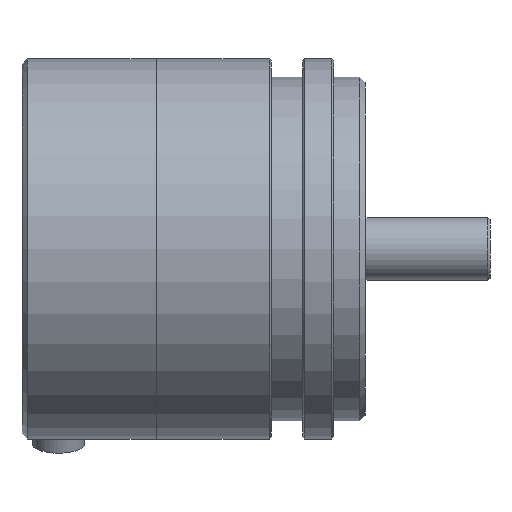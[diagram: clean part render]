
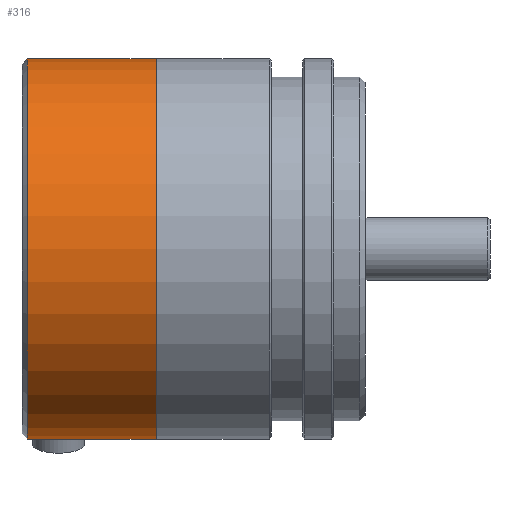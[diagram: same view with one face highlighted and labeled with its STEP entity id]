
A CAD part, left-side view. The second image highlights one B-rep face of the part: STEP entity #316.
In plain terms, the highlighted cylindrical face has radius 18.25 mm (diameter 36.5 mm), a partial arc.
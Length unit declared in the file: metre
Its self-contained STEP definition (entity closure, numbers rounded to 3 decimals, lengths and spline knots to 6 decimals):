
#29 = EDGE_CURVE ( 'NONE', #1962, #47, #444, .T. ) ;
#47 = VERTEX_POINT ( 'NONE', #573 ) ;
#123 = VERTEX_POINT ( 'NONE', #1216 ) ;
#233 = EDGE_CURVE ( 'NONE', #2034, #123, #658, .T. ) ;
#316 = ADVANCED_FACE ( 'NONE', ( #770 ), #771, .T. ) ;
#444 = LINE ( 'NONE', #445, #446 ) ;
#445 = CARTESIAN_POINT ( 'NONE',  ( 0.031546, -0.011, 0.01825 ) ) ;
#446 = VECTOR ( 'NONE',  #447 ,1. ) ;
#447 = DIRECTION ( 'NONE',  ( 0., -1., 0. ) ) ;
#531 = EDGE_LOOP ( 'NONE', ( #934, #1938, #1979, #2007 ) ) ;
#573 = CARTESIAN_POINT ( 'NONE',  ( 0.031546, 0.02105, 0.01825 ) ) ;
#658 = LINE ( 'NONE', #659, #660 ) ;
#659 = CARTESIAN_POINT ( 'NONE',  ( 0.031546, -0.011, -0.01825 ) ) ;
#660 = VECTOR ( 'NONE',  #661 ,1. ) ;
#661 = DIRECTION ( 'NONE',  ( 0., -1., 0. ) ) ;
#770 = FACE_OUTER_BOUND ( 'NONE', #531, .T. ) ;
#771 = CYLINDRICAL_SURFACE ( 'NONE', #772, 0.01825 ) ;
#772 = AXIS2_PLACEMENT_3D ( 'NONE', #773, #774, #775 ) ;
#773 = CARTESIAN_POINT ( 'NONE',  ( 0.031546, -0.011, 0. ) ) ;
#774 = DIRECTION ( 'NONE',  ( 0., -1., 0. ) ) ;
#775 = DIRECTION ( 'NONE',  ( 0., 0., -1. ) ) ;
#934 = ORIENTED_EDGE ( 'NONE', *, *, #29, .F. ) ;
#1080 = CIRCLE ( 'NONE', #1081, 0.01825 ) ;
#1081 = AXIS2_PLACEMENT_3D ( 'NONE', #1083, #1084, #1085 ) ;
#1083 = CARTESIAN_POINT ( 'NONE',  ( 0.031546, 0.033435, 0. ) ) ;
#1084 = DIRECTION ( 'NONE',  ( 0., -1., 0. ) ) ;
#1085 = DIRECTION ( 'NONE',  ( 0., 0., 1. ) ) ;
#1165 = CARTESIAN_POINT ( 'NONE',  ( 0.031546, 0.033435, 0.01825 ) ) ;
#1216 = CARTESIAN_POINT ( 'NONE',  ( 0.031546, 0.02105, -0.01825 ) ) ;
#1751 = CIRCLE ( 'NONE', #1752, 0.01825 ) ;
#1752 = AXIS2_PLACEMENT_3D ( 'NONE', #1753, #1754, #1757 ) ;
#1753 = CARTESIAN_POINT ( 'NONE',  ( 0.031546, 0.02105, 0. ) ) ;
#1754 = DIRECTION ( 'NONE',  ( 0., -1., 0. ) ) ;
#1757 = DIRECTION ( 'NONE',  ( 0., 0., -1. ) ) ;
#1777 = CARTESIAN_POINT ( 'NONE',  ( 0.031546, 0.033435, -0.01825 ) ) ;
#1938 = ORIENTED_EDGE ( 'NONE', *, *, #1953, .T. ) ;
#1953 = EDGE_CURVE ( 'NONE', #1962, #2034, #1080, .T. ) ;
#1962 = VERTEX_POINT ( 'NONE', #1165 ) ;
#1979 = ORIENTED_EDGE ( 'NONE', *, *, #233, .T. ) ;
#2007 = ORIENTED_EDGE ( 'NONE', *, *, #2028, .F. ) ;
#2028 = EDGE_CURVE ( 'NONE', #47, #123, #1751, .T. ) ;
#2034 = VERTEX_POINT ( 'NONE', #1777 ) ;
